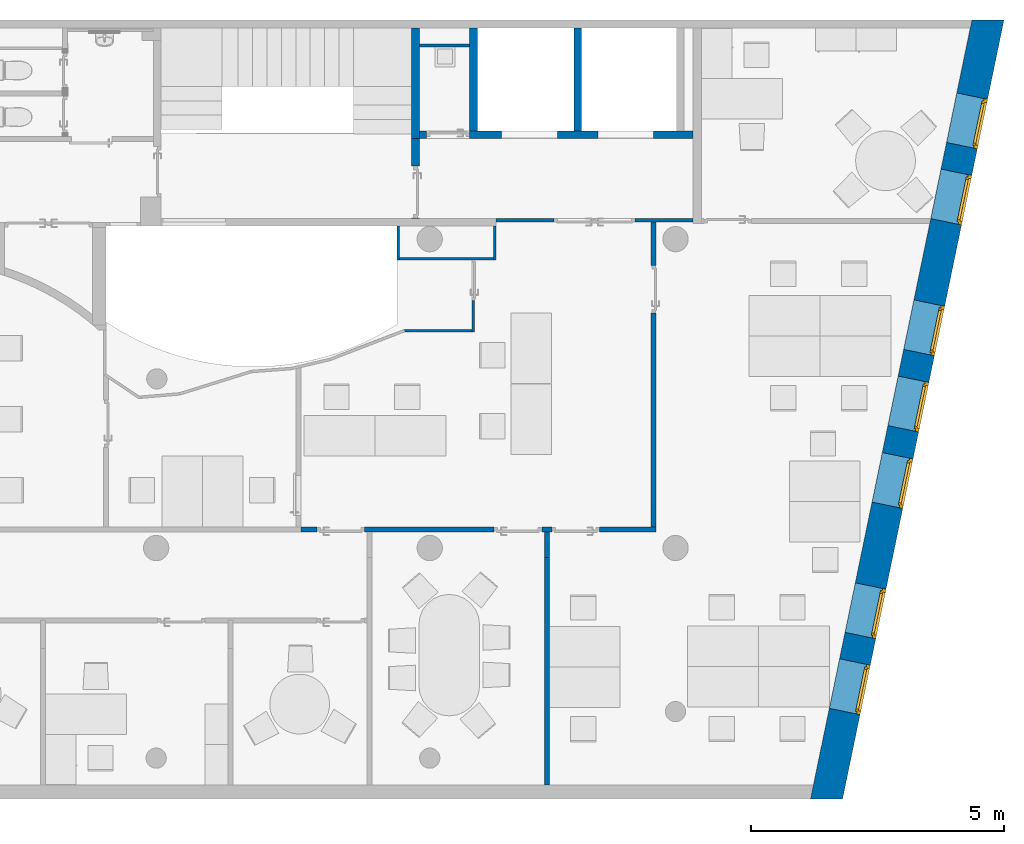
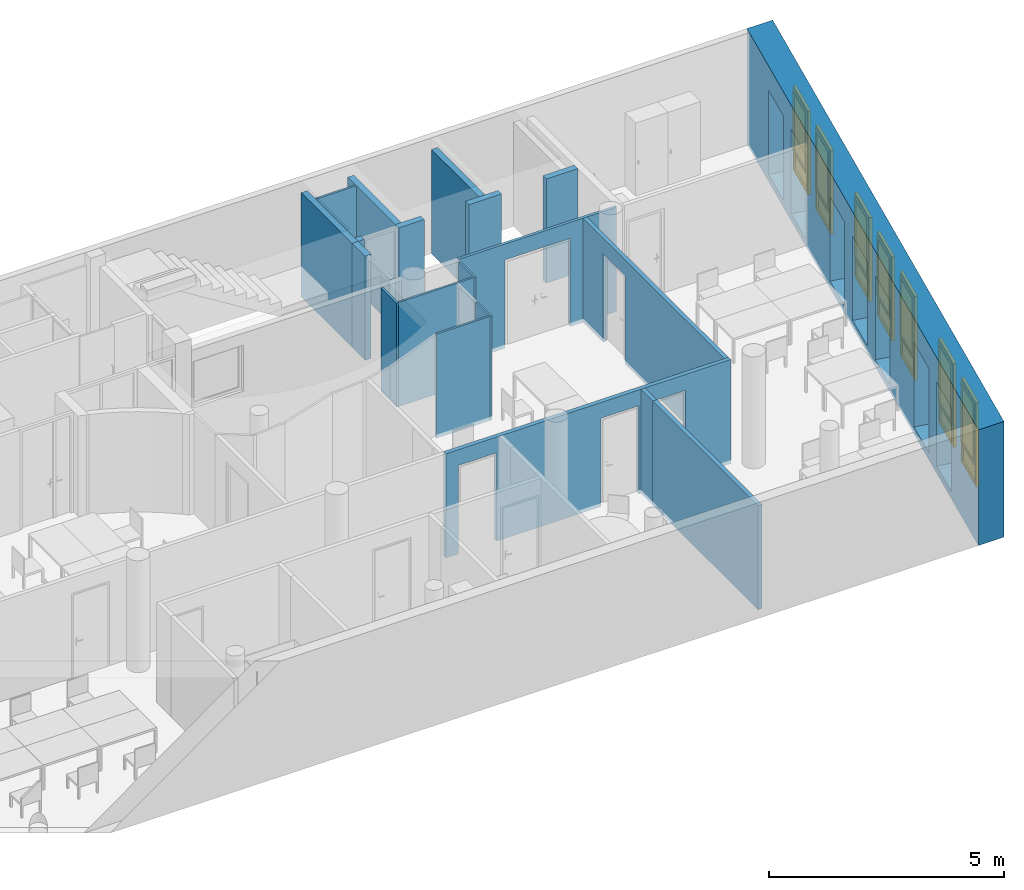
"""IFC4 building model written with IfcOpenShell, lengths in metres."""

from ifc_helpers import new_model, entity, si_unit, converted_unit, derived_unit, frame, frame_2d, origin, origin_with_axes, place, context, subcontext, project, spatial, polyline, rectangle, outline, extrude, closed_shell, open_shell, surface_model, source, transform, mapped, material, layer, layer_set, layer_usage, type_object, element, fill, save


model = new_model("IFC4")

# Units and contexts
model_context = context("Model", 3, precision=1e-05, world=origin())
body_context = subcontext(model_context, "Body", "Model", "MODEL_VIEW")
ifc_project = project(units=[si_unit("LENGTHUNIT", "METRE"), si_unit("AREAUNIT", "SQUARE_METRE"), si_unit("VOLUMEUNIT", "CUBIC_METRE"), si_unit("MASSUNIT", "GRAM", prefix="KILO"), converted_unit("PLANEANGLEUNIT", "DEGREE", entity("IfcPlaneAngleMeasure", 0.0174532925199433), si_unit("PLANEANGLEUNIT", "RADIAN"), dimensions=[0, 0, 0, 0, 0, 0, 0]), derived_unit("THERMALTRANSMITTANCEUNIT", [(si_unit("POWERUNIT", "WATT"), 1), (si_unit("THERMODYNAMICTEMPERATUREUNIT", "KELVIN"), -1), (si_unit("LENGTHUNIT", "METRE"), -2)]), derived_unit("VOLUMETRICFLOWRATEUNIT", [(si_unit("LENGTHUNIT", "METRE"), 3), (converted_unit("TIMEUNIT", "hour", entity("IfcTimeMeasure", 3600.0), si_unit("TIMEUNIT", "SECOND"), dimensions=[0, 0, 1, 0, 0, 0, 0]), -1), (si_unit("LENGTHUNIT", "METRE"), -1)])], contexts=[model_context])

# Building, storeys
building_placement = place(None, origin())
building = spatial("IfcBuilding", under=ifc_project, at=building_placement, Name="HABITATGE PLURIFAMILIAR", CompositionType="ELEMENT")
storey_1_placement = place(building_placement, frame((0.0, 0.0, 9.26)))
storey_1 = spatial("IfcBuildingStorey", under=building, at=storey_1_placement, Name="PLANTA SEGONA", CompositionType="ELEMENT", Elevation=9.26)
storey_2_placement = place(storey_1_placement, frame((0.0, 0.0, 6.25)))
storey_2 = spatial("IfcBuildingStorey", under=storey_1, at=storey_2_placement, Name="NOU", CompositionType="PARTIAL")

# Walls
ifc_material_1 = material()
ifc_layer_1 = layer(ifc_material_1, 0.05)
ifc_layer_set_1 = layer_set([ifc_layer_1])
ifc_layer_usage_1 = layer_usage(ifc_layer_set_1, "AXIS2", "POSITIVE", 0.0)
wall_1_placement = place(storey_2_placement, frame((415.489621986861, 24.1594598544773, -6.35), z_axis=(0.0, 0.0, 1.0), x_axis=(0.0, -1.0, 0.0)))
element("IfcWall", 1, at=wall_1_placement, inside=storey_2, material=ifc_layer_usage_1, Name="Evans P2", context=body_context, shape_type="SweptSolid", body=[
    extrude(rectangle(XDim=0.669999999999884, YDim=0.05, at=frame_2d((0.334999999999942, 0.025), x_axis=(1.0, 0.0))), origin_with_axes(), (0.0, 0.0, 1.0), 2.71),
])
ifc_material_2 = material()
ifc_layer_2 = layer(ifc_material_2, 0.15)
ifc_layer_set_2 = layer_set([ifc_layer_2])
ifc_layer_usage_2 = layer_usage(ifc_layer_set_2, "AXIS2", "POSITIVE", 0.0)
wall_2_placement = place(storey_2_placement, frame((419.136984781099, 26.0394598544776, -6.35), z_axis=(0.0, 0.0, 1.0), x_axis=(0.0, 1.0, 0.0)))
element("IfcWall", 2, at=wall_2_placement, inside=storey_2, material=ifc_layer_usage_2, Name="Evans P2", context=body_context, shape_type="SweptSolid", body=[
    extrude(rectangle(XDim=2.02878804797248, YDim=0.15, at=frame_2d((1.01439402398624, 0.075), x_axis=(1.0, 0.0))), origin_with_axes(), (0.0, 0.0, 1.0), 2.71),
])
ifc_material_3 = material()
ifc_layer_3 = layer(ifc_material_3, 0.15)
ifc_layer_set_3 = layer_set([ifc_layer_3])
ifc_layer_usage_3 = layer_usage(ifc_layer_set_3, "AXIS2", "POSITIVE", 0.0)
wall_3_placement = place(storey_2_placement, frame((417.076984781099, 26.0394598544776, -6.35), z_axis=(0.0, 0.0, 1.0), x_axis=(0.0, 1.0, 0.0)))
element("IfcWall", 3, at=wall_3_placement, inside=storey_2, material=ifc_layer_usage_3, Name="Evans P2", context=body_context, shape_type="SweptSolid", body=[
    extrude(outline(polyline([(0.0, -0.15), (2.02878804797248, -0.15), (2.02878972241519, 0.0), (0.0, 0.0), (0.0, -0.15)])), frame((0.0, 0.15, 0.0), z_axis=(0.0, 0.0, 1.0), x_axis=(1.0, 0.0, 0.0)), (0.0, 0.0, 1.0), 2.71),
])

# Wall, openings
ifc_material_4 = material()
ifc_layer_4 = layer(ifc_material_4, 0.15)
ifc_layer_set_4 = layer_set([ifc_layer_4])
ifc_layer_usage_4 = layer_usage(ifc_layer_set_4, "AXIS2", "POSITIVE", 0.0)
wall_4_placement = place(storey_2_placement, frame((415.930797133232, 25.8894598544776, -6.35)))
wall_4 = element("IfcWall", 4, at=wall_4_placement, inside=storey_2, material=ifc_layer_usage_4, Name="Evans P2", context=body_context, shape_type="SweptSolid", body=[
    extrude(rectangle(XDim=5.40618764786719, YDim=0.15, at=frame_2d((2.7030938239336, 0.075), x_axis=(1.0, 0.0))), origin_with_axes(), (0.0, 0.0, 1.0), 2.71),
])
opening_1_placement = place(wall_4_placement, frame((0.146187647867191, 0.0, 0.0), z_axis=(0.0, 1.0, 0.0), x_axis=(0.0, 0.0, 1.0)))
element("IfcOpeningElement", 5, at=opening_1_placement, cuts=wall_4, Name="Vano puerta", ObjectType="Opening", context=body_context, shape_type="SweptSolid", body=[
    extrude(outline(polyline([(2.71, 0.850000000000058), (2.71, 0.0), (0.0, 0.0), (0.0, 0.850000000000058), (2.71, 0.850000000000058)])), origin_with_axes(), (0.0, 0.0, 1.0), 0.15),
])
opening_2_placement = place(wall_4_placement, frame((3.52618764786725, 0.0, 0.0), z_axis=(0.0, 1.0, 0.0), x_axis=(0.0, 0.0, 1.0)))
element("IfcOpeningElement", 6, at=opening_2_placement, cuts=wall_4, Name="Vano puerta", ObjectType="Opening", context=body_context, shape_type="SweptSolid", body=[
    extrude(outline(polyline([(2.71, 1.1), (2.71, 0.0), (0.0, 0.0), (0.0, 1.1), (2.71, 1.1)])), origin_with_axes(), (0.0, 0.0, 1.0), 0.15),
])
opening_3_placement = place(wall_4_placement, frame((1.62618764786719, 0.0, 0.0), z_axis=(0.0, 1.0, 0.0), x_axis=(0.0, 0.0, 1.0)))
element("IfcOpeningElement", 7, at=opening_3_placement, cuts=wall_4, Name="Vano puerta", ObjectType="Opening", context=body_context, shape_type="SweptSolid", body=[
    extrude(outline(polyline([(2.71, 1.1), (2.71, 0.0), (0.0, 0.0), (0.0, 1.1), (2.71, 1.1)])), origin_with_axes(), (0.0, 0.0, 1.0), 0.15),
])

# Walls
ifc_material_5 = material()
ifc_layer_5 = layer(ifc_material_5, 0.05)
ifc_layer_set_5 = layer_set([ifc_layer_5])
ifc_layer_usage_5 = layer_usage(ifc_layer_set_5, "AXIS2", "POSITIVE", 0.0)
wall_5_placement = place(storey_2_placement, frame((417.446984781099, 23.4894598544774, -6.35), z_axis=(0.0, 0.0, 1.0), x_axis=(0.0, 1.0, 0.0)))
element("IfcWall", 8, at=wall_5_placement, inside=storey_2, material=ifc_layer_usage_5, Name="Evans P2", context=body_context, shape_type="SweptSolid", body=[
    extrude(rectangle(XDim=0.669999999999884, YDim=0.05, at=frame_2d((0.334999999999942, 0.025), x_axis=(1.0, 0.0))), origin_with_axes(), (0.0, 0.0, 1.0), 2.71),
])
ifc_material_6 = material()
ifc_layer_6 = layer(ifc_material_6, 0.05)
ifc_layer_set_6 = layer_set([ifc_layer_6])
ifc_layer_usage_6 = layer_usage(ifc_layer_set_6, "AXIS2", "POSITIVE", 0.0)
wall_6_placement = place(storey_2_placement, frame((415.539621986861, 23.4894598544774, -6.35)))
element("IfcWall", 9, at=wall_6_placement, inside=storey_2, material=ifc_layer_usage_6, Name="Evans P2", context=body_context, shape_type="SweptSolid", body=[
    extrude(rectangle(XDim=1.85736279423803, YDim=0.05, at=frame_2d((0.928681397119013, 0.025), x_axis=(1.0, 0.0))), origin_with_axes(), (0.0, 0.0, 1.0), 2.71),
])
ifc_material_7 = material()
ifc_layer_7 = layer(ifc_material_7, 0.15)
ifc_layer_set_7 = layer_set([ifc_layer_7])
ifc_layer_usage_7 = layer_usage(ifc_layer_set_7, "AXIS2", "POSITIVE", 0.0)
wall_7_placement = place(storey_2_placement, frame((415.780797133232, 28.0682623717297, -6.35), z_axis=(0.0, 0.0, 1.0), x_axis=(0.0, -1.0, 0.0)))
element("IfcWall", 10, at=wall_7_placement, inside=storey_2, material=ifc_layer_usage_7, Name="Evans P2", context=body_context, shape_type="SweptSolid", body=[
    extrude(rectangle(XDim=2.17880251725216, YDim=0.15, at=frame_2d((1.08940125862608, 0.075), x_axis=(1.0, 0.0))), origin_with_axes(), (0.0, 0.0, 1.0), 2.71),
])

# Wall, opening
ifc_material_8 = material()
ifc_layer_8 = layer(ifc_material_8, 0.07)
ifc_layer_set_8 = layer_set([ifc_layer_8])
ifc_layer_usage_8 = layer_usage(ifc_layer_set_8, "AXIS2", "POSITIVE", 0.0)
wall_8_placement = place(storey_2_placement, frame((421.336984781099, 24.3069029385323, -6.35), z_axis=(0.0, 0.0, 1.0), x_axis=(-1.0, 0.0, 0.0)))
wall_8 = element("IfcWall", 11, at=wall_8_placement, inside=storey_2, material=ifc_layer_usage_8, Name="Mampara P2", context=body_context, shape_type="SweptSolid", body=[
    extrude(rectangle(XDim=3.89, YDim=0.07, at=frame_2d((1.945, 0.035), x_axis=(1.0, 0.0))), origin_with_axes(), (0.0, 0.0, 1.0), 2.71),
])
opening_4_placement = place(wall_8_placement, frame((2.74438738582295, 0.07, 0.0), z_axis=(0.0, -1.0, 0.0), x_axis=(0.0, 0.0, 1.0)))
element("IfcOpeningElement", 12, at=opening_4_placement, cuts=wall_8, Name="Vano puerta", ObjectType="Opening", context=body_context, shape_type="SweptSolid", body=[
    extrude(outline(polyline([(2.3, 1.60013809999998), (2.3, 0.0), (0.0, 0.0), (0.0, 1.60013809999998), (2.3, 1.60013809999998)])), origin_with_axes(), (0.0, 0.0, 1.0), 0.07),
])

ifc_material_9 = material()
ifc_layer_9 = layer(ifc_material_9, 0.05)
ifc_layer_set_9 = layer_set([ifc_layer_9])
ifc_layer_usage_9 = layer_usage(ifc_layer_set_9, "AXIS2", "POSITIVE", 0.0)
wall_9_placement = place(storey_2_placement, frame((417.016984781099, 22.0694598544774, -6.35), z_axis=(0.0, 0.0, 1.0), x_axis=(0.0, 1.0, 0.0)))
wall_9 = element("IfcWall", 13, at=wall_9_placement, inside=storey_2, material=ifc_layer_usage_9, Name="Mampara P2", context=body_context, shape_type="SweptSolid", body=[
    extrude(outline(polyline([(0.0, -0.05), (1.42000000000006, -0.05), (1.42000000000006, 0.0), (0.05, 0.0), (0.05, -0.000811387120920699), (0.0, -0.000811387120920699), (0.0, -0.05)])), frame((0.0, 0.05, 0.0), z_axis=(0.0, 0.0, 1.0), x_axis=(1.0, 0.0, 0.0)), (0.0, 0.0, 1.0), 2.71),
])
opening_5_placement = place(wall_9_placement, frame((1.42000000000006, 0.05, 0.0), z_axis=(0.0, -1.0, 0.0), x_axis=(0.0, 0.0, 1.0)))
element("IfcOpeningElement", 14, at=opening_5_placement, cuts=wall_9, Name="Vano puerta", ObjectType="Opening", context=body_context, shape_type="SweptSolid", body=[
    extrude(outline(polyline([(2.71, 0.806101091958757), (2.71, 0.0), (0.0, 0.0), (0.0, 0.806101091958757), (2.71, 0.806101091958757)])), origin_with_axes(), (0.0, 0.0, 1.0), 0.05),
])

# Walls
ifc_material_10 = material()
ifc_layer_10 = layer(ifc_material_10, 0.05)
ifc_layer_set_10 = layer_set([ifc_layer_10])
ifc_layer_usage_10 = layer_usage(ifc_layer_set_10, "AXIS2", "POSITIVE", 0.0)
wall_10_placement = place(storey_2_placement, frame((415.646984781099, 22.0694598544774, -6.35)))
element("IfcWall", 15, at=wall_10_placement, inside=storey_2, material=ifc_layer_usage_10, Name="Mampara P2", context=body_context, shape_type="SweptSolid", body=[
    extrude(outline(polyline([(0.0100293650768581, 0.0), (1.33084075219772, 0.0), (1.33084075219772, 0.05), (0.0, 0.05), (4.66787212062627e-05, 0.0497488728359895), (0.000658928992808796, 0.0499857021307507), (0.0100293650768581, 0.0)])), frame((-0.0100293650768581, 0.0, 0.0), z_axis=(0.0, 0.0, 1.0), x_axis=(1.0, 0.0, 0.0)), (0.0, 0.0, 1.0), 2.71),
])
ifc_material_11 = material()
ifc_layer_11 = layer(ifc_material_11, 0.05)
ifc_layer_set_11 = layer_set([ifc_layer_11])
ifc_layer_usage_11 = layer_usage(ifc_layer_set_11, "AXIS2", "POSITIVE", 0.0)
wall_11_placement = place(storey_2_placement, frame((415.930797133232, 27.6994598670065, -6.35)))
element("IfcWall", 16, at=wall_11_placement, inside=storey_2, material=ifc_layer_usage_11, Name="Envans P1", context=body_context, shape_type="SweptSolid", body=[
    extrude(rectangle(XDim=0.996187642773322, YDim=0.05, at=frame_2d((0.498093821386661, 0.025), x_axis=(1.0, 0.0))), origin_with_axes(), (0.0, 0.0, 1.0), 2.71),
])

# Wall, openings, doors
ifc_material_12 = material()
ifc_layer_12 = layer(ifc_material_12, 0.6200000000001)
ifc_layer_set_12 = layer_set([ifc_layer_12])
ifc_layer_usage_12 = layer_usage(ifc_layer_set_12, "AXIS2", "POSITIVE", 0.0)
wall_12_placement = place(storey_2_placement, frame((424.290656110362, 12.8406121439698, -6.35), z_axis=(0.0, 0.0, 1.0), x_axis=(0.202927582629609, 0.97919374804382, 0.0)))
wall_12 = element("IfcWall", 17, at=wall_12_placement, inside=storey_2, material=ifc_layer_usage_12, Name="Façana sur-est P2", context=body_context, shape_type="SweptSolid", body=[
    extrude(outline(polyline([(0.128488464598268, -0.620000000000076), (15.8425799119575, -0.620000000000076), (15.7142236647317, 0.0), (0.0, 0.0), (0.128488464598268, -0.620000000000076)])), frame((-0.128488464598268, 0.620000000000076, 0.0), z_axis=(0.0, 0.0, 1.0), x_axis=(1.0, 0.0, 0.0)), (0.0, 0.0, 1.0), 3.01),
])
opening_6_placement = place(wall_12_placement, frame((8.94115367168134, 0.0, 0.19), z_axis=(0.0, 1.0, 0.0), x_axis=(0.0, 0.0, 1.0)))
opening_6 = element("IfcOpeningElement", 18, at=opening_6_placement, cuts=wall_12, Name="Vano finestra P2", ObjectType="Opening", context=body_context, shape_type="SweptSolid", body=[
    extrude(outline(polyline([(2.19, 1.00000000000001), (2.19, 0.0), (0.0, 0.0), (0.0, 1.00000000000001), (2.19, 1.00000000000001)])), origin_with_axes(), (0.0, 0.0, 1.0), 0.620000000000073),
])
opening_7_placement = place(wall_12_placement, frame((5.86115513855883, 0.0, 0.19), z_axis=(-1.46692693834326e-15, 1.0, 0.0), x_axis=(0.0, 0.0, 1.0)))
opening_7 = element("IfcOpeningElement", 19, at=opening_7_placement, cuts=wall_12, Name="Vano finestra P2", ObjectType="Opening", context=body_context, shape_type="SweptSolid", body=[
    extrude(outline(polyline([(2.19, 1.00000000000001), (2.19, 0.0), (0.0, 0.0), (0.0, 1.00000000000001), (2.19, 1.00000000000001)])), origin_with_axes(), (0.0, 0.0, 1.0), 0.620000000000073),
])
opening_8_placement = place(wall_12_placement, frame((3.23345430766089, 0.0, 0.19), z_axis=(-3.6673173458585e-15, 1.0, 0.0), x_axis=(0.0, 0.0, 1.0)))
opening_8 = element("IfcOpeningElement", 20, at=opening_8_placement, cuts=wall_12, Name="Vano finestra P2", ObjectType="Opening", context=body_context, shape_type="SweptSolid", body=[
    extrude(outline(polyline([(2.19, 1.0), (2.19, 0.0), (0.0, 0.0), (0.0, 1.0), (2.19, 1.0)])), origin_with_axes(), (0.0, 0.0, 1.0), 0.620000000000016),
])
opening_9_placement = place(wall_12_placement, frame((7.40402610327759, 0.0, 0.19), z_axis=(-2.93385387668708e-15, 1.0, 0.0), x_axis=(0.0, 0.0, 1.0)))
opening_9 = element("IfcOpeningElement", 21, at=opening_9_placement, cuts=wall_12, Name="Vano finestra P2", ObjectType="Opening", context=body_context, shape_type="SweptSolid", body=[
    extrude(outline(polyline([(2.19, 1.0), (2.19, 0.0), (0.0, 0.0), (0.0, 1.0), (2.19, 1.0)])), origin_with_axes(), (0.0, 0.0, 1.0), 0.619999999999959),
])
opening_10_placement = place(wall_12_placement, frame((11.5792837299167, 0.0, 0.19), z_axis=(-2.93385387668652e-15, 1.0, 0.0), x_axis=(0.0, 0.0, 1.0)))
opening_10 = element("IfcOpeningElement", 22, at=opening_10_placement, cuts=wall_12, Name="Vano finestra P2", ObjectType="Opening", context=body_context, shape_type="SweptSolid", body=[
    extrude(outline(polyline([(2.19, 1.0), (2.19, 0.0), (0.0, 0.0), (0.0, 1.0), (2.19, 1.0)])), origin_with_axes(), (0.0, 0.0, 1.0), 0.620000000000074),
])
opening_11_placement = place(wall_12_placement, frame((13.1150671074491, 0.0, 0.19), z_axis=(0.0, 1.0, 0.0), x_axis=(0.0, 0.0, 1.0)))
opening_11 = element("IfcOpeningElement", 23, at=opening_11_placement, cuts=wall_12, Name="Vano finestra P2", ObjectType="Opening", context=body_context, shape_type="SweptSolid", body=[
    extrude(outline(polyline([(2.19, 1.0), (2.19, 0.0), (0.0, 0.0), (0.0, 1.0), (2.19, 1.0)])), origin_with_axes(), (0.0, 0.0, 1.0), 0.620000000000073),
])
opening_12_placement = place(wall_12_placement, frame((1.70128761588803, 0.0, 0.19), z_axis=(-1.10019520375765e-15, 1.0, 0.0), x_axis=(0.0, 0.0, 1.0)))
opening_12 = element("IfcOpeningElement", 24, at=opening_12_placement, cuts=wall_12, Name="Vano finestra P2", ObjectType="Opening", context=body_context, shape_type="SweptSolid", body=[
    extrude(outline(polyline([(2.19, 0.999999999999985), (2.19, 0.0), (0.0, 0.0), (0.0, 0.999999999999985), (2.19, 0.999999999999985)])), origin_with_axes(), (0.0, 0.0, 1.0), 0.619999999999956),
])
door_type_1 = type_object("IfcDoorType", Name="Finestra P2", OperationType="NOTDEFINED", ParameterTakesPrecedence=False, PredefinedType="DOOR")
shared_shape = source(origin_with_axes(), body_context, "Body", "SurfaceModel", [
    surface_model("IfcShellBasedSurfaceModel", [(0.0, 0.0700000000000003, 2.19), (0.0, 0.07, 0.0), (0.07, 0.07, 0.0), (0.07, 0.0700000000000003, 2.19), (0.0, 0.0, 0.0), (0.0, 0.0, 2.19), (0.07, 0.0, 2.19), (0.07, 0.0, 0.0)], [closed_shell([[[0, 1, 2, 3]], [[4, 5, 6, 7]], [[1, 0, 5, 4]], [[2, 1, 4, 7]], [[3, 2, 7, 6]], [[0, 3, 6, 5]]], orient=[[False], [False], [False], [False], [False], [False]])]),
    surface_model("IfcShellBasedSurfaceModel", [(0.929999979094, 0.0700000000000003, 2.19), (0.929999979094, 0.07, 0.0), (0.999999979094, 0.07, 0.0), (0.999999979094, 0.0700000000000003, 2.19), (0.929999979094, 0.0, 0.0), (0.929999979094, 0.0, 2.19), (0.999999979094, 0.0, 2.19), (0.999999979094, 0.0, 0.0)], [closed_shell([[[0, 1, 2, 3]], [[4, 5, 6, 7]], [[1, 0, 5, 4]], [[2, 1, 4, 7]], [[3, 2, 7, 6]], [[0, 3, 6, 5]]], orient=[[False], [False], [False], [False], [False], [False]])]),
    surface_model("IfcShellBasedSurfaceModel", [(0.07, 0.07, 0.07), (0.07, 0.07, 0.0), (0.929999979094, 0.07, 0.0), (0.929999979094, 0.07, 0.07), (0.07, 0.0, 0.0), (0.07, 0.0, 0.07), (0.929999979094, 0.0, 0.07), (0.929999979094, 0.0, 0.0)], [closed_shell([[[0, 1, 2, 3]], [[4, 5, 6, 7]], [[1, 0, 5, 4]], [[2, 1, 4, 7]], [[3, 2, 7, 6]], [[0, 3, 6, 5]]], orient=[[False], [False], [False], [False], [False], [False]])]),
    surface_model("IfcShellBasedSurfaceModel", [(0.07, 0.0700000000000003, 2.19), (0.07, 0.0700000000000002, 2.12), (0.929999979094, 0.0700000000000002, 2.12), (0.929999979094, 0.0700000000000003, 2.19), (0.07, 0.0, 2.12), (0.07, 0.0, 2.19), (0.929999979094, 0.0, 2.19), (0.929999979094, 0.0, 2.12)], [closed_shell([[[0, 1, 2, 3]], [[4, 5, 6, 7]], [[1, 0, 5, 4]], [[2, 1, 4, 7]], [[3, 2, 7, 6]], [[0, 3, 6, 5]]], orient=[[False], [False], [False], [False], [False], [False]])]),
    surface_model("IfcShellBasedSurfaceModel", [(0.07, 0.035, 0.07), (0.929999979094, 0.035, 0.07), (0.929999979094, 0.0350000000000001, 0.57), (0.07, 0.0350000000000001, 0.57)], [open_shell([[[0, 1, 2, 3]]], orient=[[False]])]),
    surface_model("IfcShellBasedSurfaceModel", [(0.05, 0.1, 2.14), (0.05, 0.1, 0.551), (0.1, 0.1, 0.551), (0.1, 0.1, 2.14), (0.05, 0.0500000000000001, 0.551), (0.05, 0.0500000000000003, 2.14), (0.1, 0.0500000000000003, 2.14), (0.1, 0.0500000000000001, 0.551)], [closed_shell([[[0, 1, 2, 3]], [[4, 5, 6, 7]], [[1, 0, 5, 4]], [[2, 1, 4, 7]], [[3, 2, 7, 6]], [[0, 3, 6, 5]]], orient=[[False], [False], [False], [False], [False], [False]])]),
    surface_model("IfcShellBasedSurfaceModel", [(0.899999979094, 0.1, 2.14), (0.899999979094, 0.1, 0.551), (0.949999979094, 0.1, 0.551), (0.949999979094, 0.1, 2.14), (0.899999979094, 0.0500000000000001, 0.551), (0.899999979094, 0.0500000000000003, 2.14), (0.949999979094, 0.0500000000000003, 2.14), (0.949999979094, 0.0500000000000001, 0.551)], [closed_shell([[[0, 1, 2, 3]], [[4, 5, 6, 7]], [[1, 0, 5, 4]], [[2, 1, 4, 7]], [[3, 2, 7, 6]], [[0, 3, 6, 5]]], orient=[[False], [False], [False], [False], [False], [False]])]),
    surface_model("IfcShellBasedSurfaceModel", [(0.1, 0.1, 0.601), (0.1, 0.1, 0.551), (0.899999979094, 0.1, 0.551), (0.899999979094, 0.1, 0.601), (0.1, 0.0500000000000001, 0.551), (0.1, 0.0500000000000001, 0.601), (0.899999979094, 0.0500000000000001, 0.601), (0.899999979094, 0.0500000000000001, 0.551)], [closed_shell([[[0, 1, 2, 3]], [[4, 5, 6, 7]], [[1, 0, 5, 4]], [[2, 1, 4, 7]], [[3, 2, 7, 6]], [[0, 3, 6, 5]]], orient=[[False], [False], [False], [False], [False], [False]])]),
    surface_model("IfcShellBasedSurfaceModel", [(0.1, 0.1, 2.14), (0.1, 0.1, 2.09), (0.899999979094, 0.1, 2.09), (0.899999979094, 0.1, 2.14), (0.1, 0.0500000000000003, 2.09), (0.1, 0.0500000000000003, 2.14), (0.899999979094, 0.0500000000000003, 2.14), (0.899999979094, 0.0500000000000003, 2.09)], [closed_shell([[[0, 1, 2, 3]], [[4, 5, 6, 7]], [[1, 0, 5, 4]], [[2, 1, 4, 7]], [[3, 2, 7, 6]], [[0, 3, 6, 5]]], orient=[[False], [False], [False], [False], [False], [False]])]),
    surface_model("IfcShellBasedSurfaceModel", [(0.1, 0.0750000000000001, 0.601), (0.899999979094, 0.0750000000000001, 0.601), (0.899999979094, 0.0750000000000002, 2.09), (0.1, 0.0750000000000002, 2.09)], [open_shell([[[0, 1, 2, 3]]], orient=[[False]])]),
])
door_1_placement = place(opening_6_placement, frame((0.0, 0.0, 0.0), z_axis=(1.0, 0.0, 0.0), x_axis=(0.0, 1.000000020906, 2.27595720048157e-15)))
door_1 = element("IfcDoor", 25, at=door_1_placement, inside=storey_2, type_object=door_type_1, Name="Finestra P2", OverallHeight=2.19, OverallWidth=1.0, context=body_context, shape_type="MappedRepresentation", body=[
    mapped(shared_shape, transform((0.0, 0.0, 0.0), x_axis=(1.0, 0.0, 0.0), y_axis=(0.0, 1.0, 0.0), z_axis=(0.0, 0.0, 1.0), scale=1.000000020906)),
])
fill(opening_6, door_1)
door_type_2 = type_object("IfcDoorType", Name="Finestra P2", OperationType="NOTDEFINED", ParameterTakesPrecedence=False, PredefinedType="DOOR")
door_2_placement = place(opening_7_placement, frame((0.0, 0.0, 0.0), z_axis=(1.0, 0.0, 0.0), x_axis=(0.0, 1.00000002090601, 2.60902410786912e-15)))
door_2 = element("IfcDoor", 26, at=door_2_placement, inside=storey_2, type_object=door_type_2, Name="Finestra P2", OverallHeight=2.19, OverallWidth=1.0, context=body_context, shape_type="MappedRepresentation", body=[
    mapped(shared_shape, transform((0.0, 0.0, 0.0), x_axis=(1.0, 0.0, 0.0), y_axis=(0.0, 1.0, 0.0), z_axis=(0.0, 0.0, 1.0), scale=1.00000002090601)),
])
fill(opening_7, door_2)
door_type_3 = type_object("IfcDoorType", Name="Finestra P2", OperationType="NOTDEFINED", ParameterTakesPrecedence=False, PredefinedType="DOOR")
door_3_placement = place(opening_8_placement, frame((0.0, 0.0, 0.0), z_axis=(1.0, 0.0, 0.0), x_axis=(0.0, 1.00000002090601, -4.44089209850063e-16)))
door_3 = element("IfcDoor", 27, at=door_3_placement, inside=storey_2, type_object=door_type_3, Name="Finestra P2", OverallHeight=2.19, OverallWidth=1.0, context=body_context, shape_type="MappedRepresentation", body=[
    mapped(shared_shape, transform((0.0, 0.0, 0.0), x_axis=(1.0, 0.0, 0.0), y_axis=(0.0, 1.0, 0.0), z_axis=(0.0, 0.0, 1.0), scale=1.00000002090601)),
])
fill(opening_8, door_3)
door_type_4 = type_object("IfcDoorType", Name="Finestra P2", OperationType="NOTDEFINED", ParameterTakesPrecedence=False, PredefinedType="DOOR")
door_4_placement = place(opening_9_placement, frame((0.0, 0.0, 0.0), z_axis=(1.0, 0.0, 0.0), x_axis=(0.0, 1.00000002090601, 2.4980018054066e-16)))
door_4 = element("IfcDoor", 28, at=door_4_placement, inside=storey_2, type_object=door_type_4, Name="Finestra P2", OverallHeight=2.19, OverallWidth=1.0, context=body_context, shape_type="MappedRepresentation", body=[
    mapped(shared_shape, transform((0.0, 0.0, 0.0), x_axis=(1.0, 0.0, 0.0), y_axis=(0.0, 1.0, 0.0), z_axis=(0.0, 0.0, 1.0), scale=1.00000002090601)),
])
fill(opening_9, door_4)
door_type_5 = type_object("IfcDoorType", Name="Finestra P2", OperationType="NOTDEFINED", ParameterTakesPrecedence=False, PredefinedType="DOOR")
door_5_placement = place(opening_10_placement, frame((0.0, 0.0, 0.0), z_axis=(1.0, 0.0, 0.0), x_axis=(0.0, 1.000000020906, 1.16573417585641e-15)))
door_5 = element("IfcDoor", 29, at=door_5_placement, inside=storey_2, type_object=door_type_5, Name="Finestra P2", OverallHeight=2.19, OverallWidth=1.0, context=body_context, shape_type="MappedRepresentation", body=[
    mapped(shared_shape, transform((0.0, 0.0, 0.0), x_axis=(1.0, 0.0, 0.0), y_axis=(0.0, 1.0, 0.0), z_axis=(0.0, 0.0, 1.0), scale=1.000000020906)),
])
fill(opening_10, door_5)
door_type_6 = type_object("IfcDoorType", Name="Finestra P2", OperationType="NOTDEFINED", ParameterTakesPrecedence=False, PredefinedType="DOOR")
door_6_placement = place(opening_11_placement, frame((0.0, 0.0, 0.0), z_axis=(1.0, 0.0, 0.0), x_axis=(0.0, 1.000000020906, 2.27595720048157e-15)))
door_6 = element("IfcDoor", 30, at=door_6_placement, inside=storey_2, type_object=door_type_6, Name="Finestra P2", OverallHeight=2.19, OverallWidth=1.0, context=body_context, shape_type="MappedRepresentation", body=[
    mapped(shared_shape, transform((0.0, 0.0, 0.0), x_axis=(1.0, 0.0, 0.0), y_axis=(0.0, 1.0, 0.0), z_axis=(0.0, 0.0, 1.0), scale=1.000000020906)),
])
fill(opening_11, door_6)
door_type_7 = type_object("IfcDoorType", Name="Finestra P2", OperationType="NOTDEFINED", ParameterTakesPrecedence=False, PredefinedType="DOOR")
door_7_placement = place(opening_12_placement, frame((0.0, 0.0, 0.0), z_axis=(1.0, 0.0, 0.0), x_axis=(0.0, 1.00000002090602, 3.33066907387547e-16)))
door_7 = element("IfcDoor", 31, at=door_7_placement, inside=storey_2, type_object=door_type_7, Name="Finestra P2", OverallHeight=2.19, OverallWidth=1.0, context=body_context, shape_type="MappedRepresentation", body=[
    mapped(shared_shape, transform((0.0, 0.0, 0.0), x_axis=(1.0, 0.0, 0.0), y_axis=(0.0, 1.0, 0.0), z_axis=(0.0, 0.0, 1.0), scale=1.00000002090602)),
])
fill(opening_12, door_7)

# Wall, openings
ifc_material_13 = material()
ifc_layer_13 = layer(ifc_material_13, 0.1)
ifc_layer_set_13 = layer_set([ifc_layer_13])
ifc_layer_usage_13 = layer_usage(ifc_layer_set_13, "AXIS2", "POSITIVE", 0.0)
wall_13_placement = place(storey_2_placement, frame((413.597122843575, 18.1154678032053, -6.35)))
wall_13 = element("IfcWall", 32, at=wall_13_placement, inside=storey_2, material=ifc_layer_usage_13, Name="Mampara P2", context=body_context, shape_type="SweptSolid", body=[
    extrude(rectangle(XDim=7.01266221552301, YDim=0.1, at=frame_2d((3.50633110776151, 0.05), x_axis=(1.0, 0.0))), origin_with_axes(), (0.0, 0.0, 1.0), 2.71),
])
opening_13_placement = place(wall_13_placement, frame((1.25, 0.1, 0.0), z_axis=(0.0, -1.0, 0.0), x_axis=(0.0, 0.0, 1.0)))
element("IfcOpeningElement", 33, at=opening_13_placement, cuts=wall_13, Name="Vano puerta", ObjectType="Opening", context=body_context, shape_type="SweptSolid", body=[
    extrude(outline(polyline([(2.3, 0.94), (2.3, 0.0), (0.0, 0.0), (0.0, 0.94), (2.3, 0.94)])), origin_with_axes(), (0.0, 0.0, 1.0), 0.1),
])
opening_14_placement = place(wall_13_placement, frame((5.89280027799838, 0.1, 0.0), z_axis=(0.0, -1.0, 0.0), x_axis=(0.0, 0.0, 1.0)))
element("IfcOpeningElement", 34, at=opening_14_placement, cuts=wall_13, Name="Vano puerta", ObjectType="Opening", context=body_context, shape_type="SweptSolid", body=[
    extrude(outline(polyline([(2.3, 0.94), (2.3, 0.0), (0.0, 0.0), (0.0, 0.94), (2.3, 0.94)])), origin_with_axes(), (0.0, 0.0, 1.0), 0.1),
])
opening_15_placement = place(wall_13_placement, frame((4.75280027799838, 0.1, 0.0), z_axis=(0.0, -1.0, 0.0), x_axis=(0.0, 0.0, 1.0)))
element("IfcOpeningElement", 35, at=opening_15_placement, cuts=wall_13, Name="Vano puerta", ObjectType="Opening", context=body_context, shape_type="SweptSolid", body=[
    extrude(outline(polyline([(2.3, 0.94), (2.3, 0.0), (0.0, 0.0), (0.0, 0.94), (2.3, 0.94)])), origin_with_axes(), (0.0, 0.0, 1.0), 0.1),
])

# Wall, opening
ifc_material_14 = material()
ifc_layer_14 = layer(ifc_material_14, 0.1)
ifc_layer_set_14 = layer_set([ifc_layer_14])
ifc_layer_usage_14 = layer_usage(ifc_layer_set_14, "AXIS2", "POSITIVE", 0.0)
wall_14_placement = place(storey_2_placement, frame((420.609785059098, 18.2154678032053, -6.35), z_axis=(0.0, 0.0, 1.0), x_axis=(0.0, 1.0, 0.0)))
wall_14 = element("IfcWall", 36, at=wall_14_placement, inside=storey_2, material=ifc_layer_usage_14, Name="Mampara P2", context=body_context, shape_type="SweptSolid", body=[
    extrude(rectangle(XDim=6.02143513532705, YDim=0.1, at=frame_2d((3.01071756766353, 0.05), x_axis=(1.0, 0.0))), origin_with_axes(), (0.0, 0.0, 1.0), 2.71),
])
opening_16_placement = place(wall_14_placement, frame((5.1671169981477, 0.1, 0.0), z_axis=(0.0, -1.0, 0.0), x_axis=(0.0, 0.0, 1.0)))
element("IfcOpeningElement", 37, at=opening_16_placement, cuts=wall_14, Name="Vano puerta", ObjectType="Opening", context=body_context, shape_type="SweptSolid", body=[
    extrude(outline(polyline([(2.3, 0.94), (2.3, 0.0), (0.0, 0.0), (0.0, 0.94), (2.3, 0.94)])), origin_with_axes(), (0.0, 0.0, 1.0), 0.1),
])

ifc_material_15 = material()
ifc_layer_15 = layer(ifc_material_15, 0.15)
ifc_layer_set_15 = layer_set([ifc_layer_15])
ifc_layer_usage_15 = layer_usage(ifc_layer_set_15, "AXIS2", "POSITIVE", 0.0)
wall_15_placement = place(storey_2_placement, frame((415.780797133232, 25.8894598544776, -6.35), z_axis=(0.0, 0.0, 1.0), x_axis=(0.0, -1.0, 0.0)))
wall_15 = element("IfcWall", 38, at=wall_15_placement, inside=storey_2, material=ifc_layer_usage_15, Name="Evans P2", context=body_context, shape_type="SweptSolid", body=[
    extrude(rectangle(XDim=1.58, YDim=0.15, at=frame_2d((0.790000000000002, 0.075), x_axis=(1.0, 0.0))), origin_with_axes(), (0.0, 0.0, 1.0), 2.71),
])
opening_17_placement = place(wall_15_placement, frame((1.57066936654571, 0.15, 0.0), z_axis=(0.0, -1.0, 0.0), x_axis=(0.0, 0.0, 1.0)))
element("IfcOpeningElement", 39, at=opening_17_placement, cuts=wall_15, Name="Vano puerta", ObjectType="Opening", context=body_context, shape_type="SweptSolid", body=[
    extrude(outline(polyline([(2.71, 1.02087368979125), (2.71, 0.0), (0.0, 0.0), (0.0, 1.02087368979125), (2.71, 1.02087368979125)])), origin_with_axes(), (0.0, 0.0, 1.0), 0.15),
])

# Walls
ifc_material_16 = material()
ifc_layer_16 = layer(ifc_material_16, 0.1)
ifc_layer_set_16 = layer_set([ifc_layer_16])
ifc_layer_usage_16 = layer_usage(ifc_layer_set_16, "AXIS2", "POSITIVE", 0.0)
wall_16_placement = place(storey_2_placement, frame((418.399923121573, 18.1154678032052, -6.35), z_axis=(0.0, 0.0, 1.0), x_axis=(0.0, -1.0, 0.0)))
element("IfcWall", 40, at=wall_16_placement, inside=storey_2, material=ifc_layer_usage_16, Name="Mampara P2", context=body_context, shape_type="SweptSolid", body=[
    extrude(rectangle(XDim=0.5, YDim=0.1, at=frame_2d((0.25, 0.05), x_axis=(1.0, 0.0))), origin_with_axes(), (0.0, 0.0, 1.0), 2.71),
])
ifc_material_17 = material()
ifc_layer_17 = layer(ifc_material_17, 0.1)
ifc_layer_set_17 = layer_set([ifc_layer_17])
ifc_layer_usage_17 = layer_usage(ifc_layer_set_17, "AXIS2", "POSITIVE", 0.0)
wall_17_placement = place(storey_2_placement, frame((418.399923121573, 17.6154678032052, -6.35), z_axis=(0.0, 0.0, 1.0), x_axis=(0.0, -1.0, 0.0)))
element("IfcWall", 41, at=wall_17_placement, inside=storey_2, material=ifc_layer_usage_17, Name="Evans P2", context=body_context, shape_type="SweptSolid", body=[
    extrude(rectangle(XDim=4.49485565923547, YDim=0.1, at=frame_2d((2.24742782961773, 0.05), x_axis=(1.0, 0.0))), origin_with_axes(), (0.0, 0.0, 1.0), 2.71),
])

save(model, "model.ifc")
